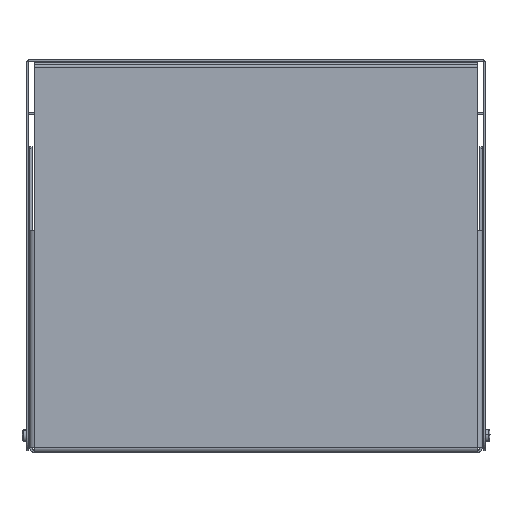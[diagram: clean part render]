
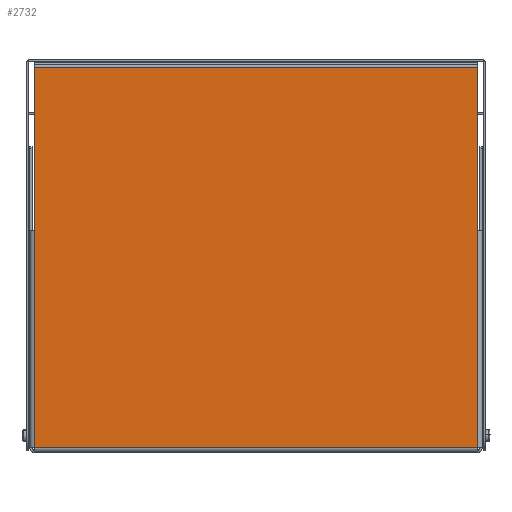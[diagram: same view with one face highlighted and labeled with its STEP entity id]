
A CAD part, front view. The second image highlights one B-rep face of the part: STEP entity #2732.
In plain terms, the highlighted planar face has unit normal (0, -1, 0) as drawn and (0, 0, -1) by its records, which use the part's own axes.
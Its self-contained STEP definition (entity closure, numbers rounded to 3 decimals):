
#239 = FACE_OUTER_BOUND ( 'NONE', #3213, .T. ) ;
#298 = DIRECTION ( 'NONE',  ( 1., 0., 0. ) ) ;
#335 = CARTESIAN_POINT ( 'NONE',  ( 145., -124.5, -1.5 ) ) ;
#562 = LINE ( 'NONE', #5927, #2889 ) ;
#775 = EDGE_CURVE ( 'NONE', #4276, #9687, #3960, .T. ) ;
#920 = CARTESIAN_POINT ( 'NONE',  ( -145., 124.5, -1.5 ) ) ;
#1338 = DIRECTION ( 'NONE',  ( 0., -1., 0. ) ) ;
#1643 = VECTOR ( 'NONE', #2825, 1000. ) ;
#1856 = DIRECTION ( 'NONE',  ( 0., 1., 0. ) ) ;
#1945 = LINE ( 'NONE', #9016, #2087 ) ;
#2087 = VECTOR ( 'NONE', #1338, 1000. ) ;
#2141 = CARTESIAN_POINT ( 'NONE',  ( -145., -124.5, -1.5 ) ) ;
#2186 = CARTESIAN_POINT ( 'NONE',  ( 145., 124.5, -1.5 ) ) ;
#2572 = CARTESIAN_POINT ( 'NONE',  ( 145., 17.5, -1.5 ) ) ;
#2678 = DIRECTION ( 'NONE',  ( 0., -1., 0. ) ) ;
#2732 = ADVANCED_FACE ( 'NONE', ( #239 ), #9353, .F. ) ;
#2825 = DIRECTION ( 'NONE',  ( 0., -1., 0. ) ) ;
#2877 = CARTESIAN_POINT ( 'NONE',  ( -145., 124.5, -1.5 ) ) ;
#2889 = VECTOR ( 'NONE', #2678, 1000. ) ;
#3024 = VERTEX_POINT ( 'NONE', #3747 ) ;
#3213 = EDGE_LOOP ( 'NONE', ( #8106, #3388, #3823, #4881, #6744, #4170 ) ) ;
#3253 = VECTOR ( 'NONE', #298, 1000. ) ;
#3271 = EDGE_CURVE ( 'NONE', #5858, #3024, #8937, .T. ) ;
#3317 = CARTESIAN_POINT ( 'NONE',  ( 0., 0., -1.5 ) ) ;
#3388 = ORIENTED_EDGE ( 'NONE', *, *, #6684, .T. ) ;
#3648 = LINE ( 'NONE', #2877, #3253 ) ;
#3747 = CARTESIAN_POINT ( 'NONE',  ( -145., 17.5, -1.5 ) ) ;
#3823 = ORIENTED_EDGE ( 'NONE', *, *, #7023, .F. ) ;
#3960 = LINE ( 'NONE', #335, #7666 ) ;
#4170 = ORIENTED_EDGE ( 'NONE', *, *, #3271, .F. ) ;
#4276 = VERTEX_POINT ( 'NONE', #8876 ) ;
#4767 = VERTEX_POINT ( 'NONE', #2186 ) ;
#4840 = VECTOR ( 'NONE', #1856, 1000. ) ;
#4881 = ORIENTED_EDGE ( 'NONE', *, *, #775, .T. ) ;
#5858 = VERTEX_POINT ( 'NONE', #920 ) ;
#5927 = CARTESIAN_POINT ( 'NONE',  ( 145., 0., -1.5 ) ) ;
#6346 = DIRECTION ( 'NONE',  ( 1., 0., 0. ) ) ;
#6684 = EDGE_CURVE ( 'NONE', #4767, #8072, #562, .T. ) ;
#6744 = ORIENTED_EDGE ( 'NONE', *, *, #8181, .F. ) ;
#6812 = CARTESIAN_POINT ( 'NONE',  ( -145., -126., -1.5 ) ) ;
#7023 = EDGE_CURVE ( 'NONE', #4276, #8072, #8973, .T. ) ;
#7048 = DIRECTION ( 'NONE',  ( -1., 0., 0. ) ) ;
#7666 = VECTOR ( 'NONE', #7048, 1000. ) ;
#7806 = EDGE_CURVE ( 'NONE', #5858, #4767, #3648, .T. ) ;
#7842 = DIRECTION ( 'NONE',  ( 0., 0., 1. ) ) ;
#7935 = AXIS2_PLACEMENT_3D ( 'NONE', #3317, #7842, #6346 ) ;
#8072 = VERTEX_POINT ( 'NONE', #2572 ) ;
#8106 = ORIENTED_EDGE ( 'NONE', *, *, #7806, .T. ) ;
#8181 = EDGE_CURVE ( 'NONE', #3024, #9687, #1945, .T. ) ;
#8785 = CARTESIAN_POINT ( 'NONE',  ( 145., -126., -1.5 ) ) ;
#8876 = CARTESIAN_POINT ( 'NONE',  ( 145., -124.5, -1.5 ) ) ;
#8937 = LINE ( 'NONE', #6812, #1643 ) ;
#8973 = LINE ( 'NONE', #8785, #4840 ) ;
#9016 = CARTESIAN_POINT ( 'NONE',  ( -145., -126., -1.5 ) ) ;
#9353 = PLANE ( 'NONE',  #7935 ) ;
#9687 = VERTEX_POINT ( 'NONE', #2141 ) ;
